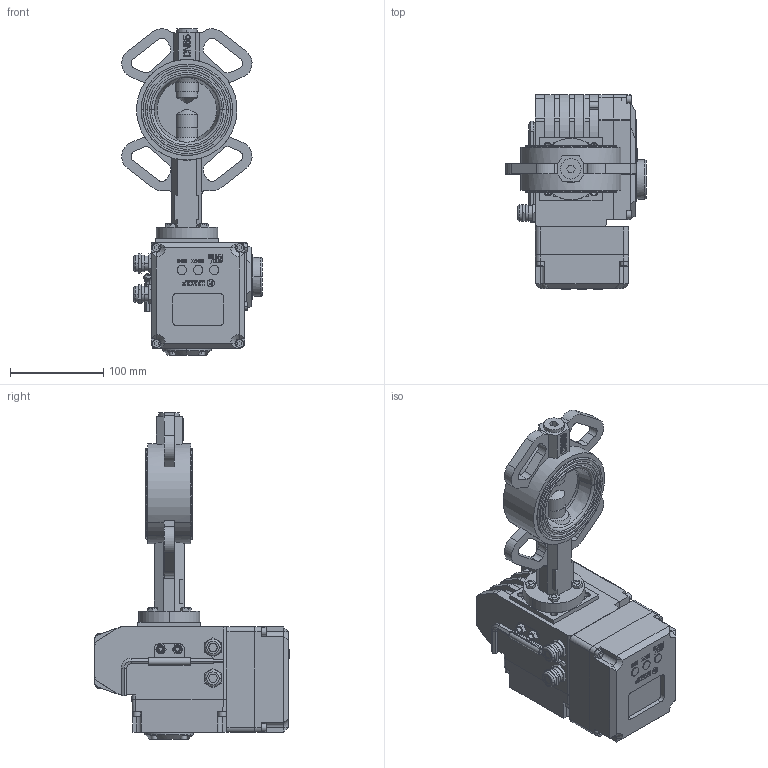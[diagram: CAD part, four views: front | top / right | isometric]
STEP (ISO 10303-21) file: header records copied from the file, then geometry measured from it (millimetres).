
FILE_DESCRIPTION((''),'2;1');
FILE_NAME('VBS_EAR_A_ASM','2025-02-22T',('AMD'),(''),'PRO/ENGINEER BY PARAMETRIC TECHNOLOGY CORPORATION, 2008020','PRO/ENGINEER BY PARAMETRIC TECHNOLOGY CORPORATION, 2008020','');
FILE_SCHEMA(('CONFIG_CONTROL_DESIGN'));
Length unit declared in the file: millimetre
Products named in the file (28): KORPUS; REZ; DISK; SHTIR_1; ZAGLUSHKA; O-RING; SHTIR_2; SHAIBA_RAZREZ; SHAIBA; KOLCO_22_GOST13943; VTULKA; MANZET_REZ; SB_ASM; B-7798-M6-20; DET_1; V-11738-M5; V-11738-M4; DET_2; KREPLENIE; KLUCH; DET_3; G-5915-M6; ELECTROPRIVOD_ASM; DET_4; DET_5; DISPLAY_ASM; ELECTROPRIVOD_WITH_DISPLAY_ASM; VBS_EAR_A_ASM
Assembly tree (51 placements, depth 4):
  VBS_EAR_A_ASM
    SB_ASM
      KORPUS
      REZ
      DISK
      SHTIR_1
      ZAGLUSHKA
      O-RING  x2
      SHTIR_2
      SHAIBA_RAZREZ
      SHAIBA  x2
      KOLCO_22_GOST13943
      VTULKA  x5
      MANZET_REZ
    B-7798-M6-20  x4
    ELECTROPRIVOD_WITH_DISPLAY_ASM
      ELECTROPRIVOD_ASM
        DET_1
        V-11738-M5  x8
        V-11738-M4  x4
        DET_2
        KREPLENIE
        KLUCH
        DET_3
        G-5915-M6  x2
      DISPLAY_ASM
        DET_4
        DET_5
        V-11738-M5  x4
Bounding box: 150.98 x 209 x 350.5 mm (x, y, z)
Volume: 2555643.6 mm3; surface area: 390636.1 mm2
Topology: 47 solids, 88 shells, 2732 faces, 7211 edges, 4757 vertices
Faces by surface type: plane 1795, cylinder 497, extrusion 300, cone 102, torus 38
Entity records: 76470 total; most frequent: CARTESIAN_POINT 16127, ORIENTED_EDGE 12718, DIRECTION 11409, EDGE_CURVE 6407, VECTOR 5083, LINE 4783, VERTEX_POINT 4243, AXIS2_PLACEMENT_3D 3163
